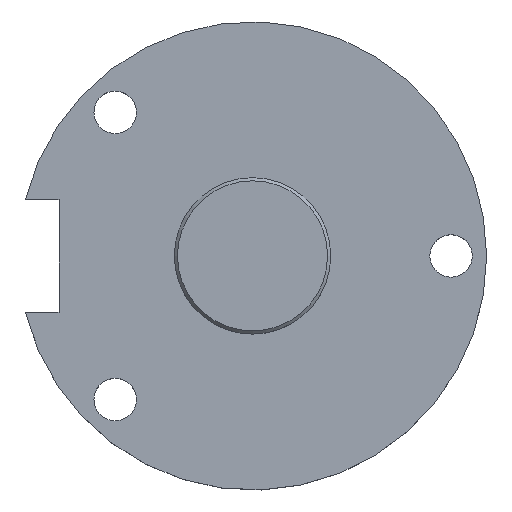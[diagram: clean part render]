
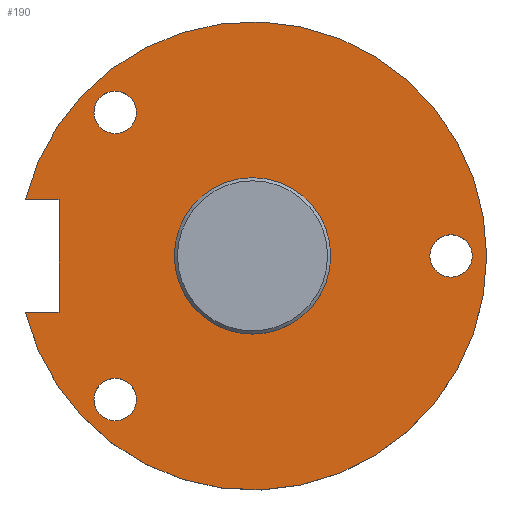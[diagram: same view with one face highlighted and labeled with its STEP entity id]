
A CAD part, top view. The second image highlights one B-rep face of the part: STEP entity #190.
In plain terms, the highlighted planar face has unit normal (0, 0, 1).
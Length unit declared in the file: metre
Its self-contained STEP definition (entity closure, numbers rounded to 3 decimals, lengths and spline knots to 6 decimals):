
#14=CIRCLE('',#211,0.0375);
#15=CIRCLE('',#214,0.0034);
#17=CIRCLE('',#217,0.0034);
#19=CIRCLE('',#220,0.0034);
#21=CIRCLE('',#224,0.012525);
#51=ORIENTED_EDGE('',*,*,#89,.F.);
#52=ORIENTED_EDGE('',*,*,#85,.T.);
#53=ORIENTED_EDGE('',*,*,#83,.F.);
#54=ORIENTED_EDGE('',*,*,#81,.F.);
#55=ORIENTED_EDGE('',*,*,#73,.F.);
#56=ORIENTED_EDGE('',*,*,#77,.T.);
#57=ORIENTED_EDGE('',*,*,#80,.T.);
#58=ORIENTED_EDGE('',*,*,#88,.T.);
#73=EDGE_CURVE('',#94,#95,#111,.T.);
#77=EDGE_CURVE('',#94,#97,#14,.T.);
#80=EDGE_CURVE('',#97,#99,#116,.T.);
#81=EDGE_CURVE('',#100,#100,#15,.T.);
#83=EDGE_CURVE('',#102,#102,#17,.T.);
#85=EDGE_CURVE('',#104,#104,#19,.T.);
#88=EDGE_CURVE('',#99,#95,#118,.T.);
#89=EDGE_CURVE('',#106,#106,#21,.T.);
#94=VERTEX_POINT('',#295);
#95=VERTEX_POINT('',#297);
#97=VERTEX_POINT('',#303);
#99=VERTEX_POINT('',#309);
#100=VERTEX_POINT('',#313);
#102=VERTEX_POINT('',#318);
#104=VERTEX_POINT('',#323);
#106=VERTEX_POINT('',#331);
#111=LINE('',#296,#121);
#116=LINE('',#310,#126);
#118=LINE('',#328,#128);
#121=VECTOR('',#237,1.);
#126=VECTOR('',#250,1.);
#128=VECTOR('',#272,1.);
#139=EDGE_LOOP('',(#51));
#140=EDGE_LOOP('',(#52));
#141=EDGE_LOOP('',(#53));
#142=EDGE_LOOP('',(#54));
#143=EDGE_LOOP('',(#55,#56,#57,#58));
#163=FACE_BOUND('',#139,.T.);
#164=FACE_BOUND('',#140,.T.);
#165=FACE_BOUND('',#141,.T.);
#166=FACE_BOUND('',#142,.T.);
#167=FACE_BOUND('',#143,.T.);
#180=PLANE('',#223);
#190=ADVANCED_FACE('',(#163,#164,#165,#166,#167),#180,.T.);
#211=AXIS2_PLACEMENT_3D('',#304,#244,#245);
#214=AXIS2_PLACEMENT_3D('',#312,#253,#254);
#217=AXIS2_PLACEMENT_3D('',#317,#259,#260);
#220=AXIS2_PLACEMENT_3D('',#322,#265,#266);
#223=AXIS2_PLACEMENT_3D('',#329,#273,#274);
#224=AXIS2_PLACEMENT_3D('',#330,#275,#276);
#237=DIRECTION('',(1.,0.,0.));
#244=DIRECTION('',(0.,0.,1.));
#245=DIRECTION('',(1.,0.,0.));
#250=DIRECTION('',(1.,0.,0.));
#253=DIRECTION('',(0.,0.,1.));
#254=DIRECTION('',(1.,0.,0.));
#259=DIRECTION('',(0.,0.,1.));
#260=DIRECTION('',(1.,0.,0.));
#265=DIRECTION('',(0.,0.,-1.));
#266=DIRECTION('',(1.,0.,0.));
#272=DIRECTION('',(0.,-1.,0.));
#273=DIRECTION('',(0.,0.,1.));
#274=DIRECTION('',(1.,0.,0.));
#275=DIRECTION('',(0.,0.,1.));
#276=DIRECTION('',(1.,0.,0.));
#295=CARTESIAN_POINT('',(-0.036392,-0.00905,0.01));
#296=CARTESIAN_POINT('',(-0.033696,-0.00905,0.01));
#297=CARTESIAN_POINT('',(-0.031,-0.00905,0.01));
#303=CARTESIAN_POINT('',(-0.036392,0.00905,0.01));
#304=CARTESIAN_POINT('',(0.,0.,0.01));
#309=CARTESIAN_POINT('',(-0.031,0.00905,0.01));
#310=CARTESIAN_POINT('',(-0.033696,0.00905,0.01));
#312=CARTESIAN_POINT('',(0.0318,0.,0.01));
#313=CARTESIAN_POINT('',(0.0352,0.,0.01));
#317=CARTESIAN_POINT('',(-0.022,0.023,0.01));
#318=CARTESIAN_POINT('',(-0.0186,0.023,0.01));
#322=CARTESIAN_POINT('',(-0.022,-0.023,0.01));
#323=CARTESIAN_POINT('',(-0.0186,-0.023,0.01));
#328=CARTESIAN_POINT('',(-0.031,0.004525,0.01));
#329=CARTESIAN_POINT('',(0.000554,0.,0.01));
#330=CARTESIAN_POINT('',(0.,0.,0.01));
#331=CARTESIAN_POINT('',(0.012525,0.,0.01));
